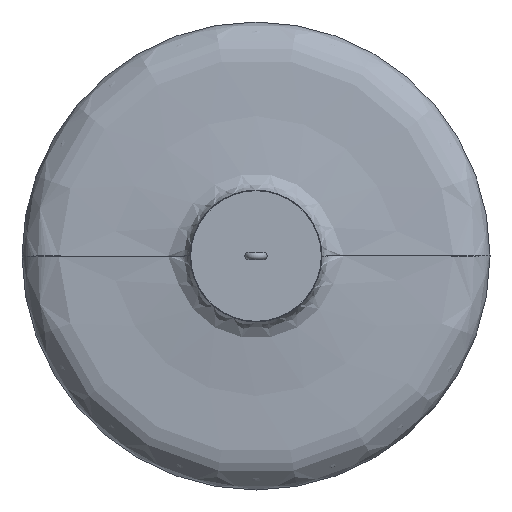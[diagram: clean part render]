
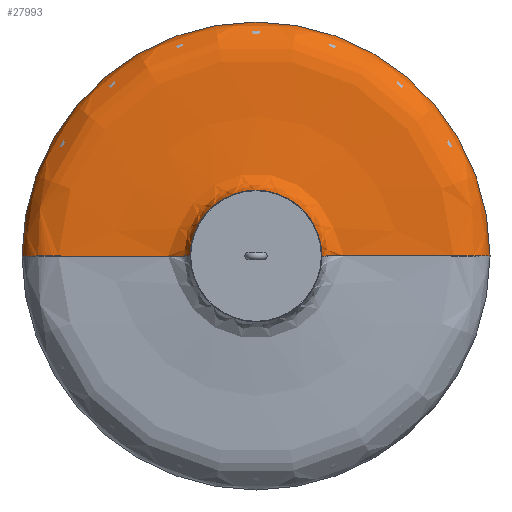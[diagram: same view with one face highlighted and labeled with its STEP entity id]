
A CAD part, front view. The second image highlights one B-rep face of the part: STEP entity #27993.
In plain terms, the highlighted face is a revolution surface.
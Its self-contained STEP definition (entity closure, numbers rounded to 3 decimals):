
#27774=CARTESIAN_POINT('',(0.,101.642,0.));
#27775=DIRECTION('',(0.,1.,0.));
#27776=DIRECTION('',(-1.,0.,0.));
#27777=AXIS2_PLACEMENT_3D('',#27774,#27775,#27776);
#27779=CARTESIAN_POINT('',(0.,0.,0.));
#27780=DIRECTION('',(0.,-1.,0.));
#27781=DIRECTION('',(1.,0.,0.));
#27782=AXIS2_PLACEMENT_3D('',#27779,#27780,#27781);
#27902=CARTESIAN_POINT('',(-400.,0.,0.));
#27903=CARTESIAN_POINT('',(-400.,6.96,0.));
#27904=CARTESIAN_POINT('',(-393.887,23.176,
0.));
#27905=CARTESIAN_POINT('',(-365.534,56.724,
0.));
#27906=CARTESIAN_POINT('',(-305.738,56.354,
0.));
#27907=CARTESIAN_POINT('',(-241.118,58.99,
0.));
#27908=CARTESIAN_POINT('',(-183.624,62.211,
0.));
#27909=CARTESIAN_POINT('',(-126.859,67.992,
0.));
#27910=CARTESIAN_POINT('',(-113.965,92.24,
0.));
#27911=CARTESIAN_POINT('',(-112.616,101.642,
0.));
#27918=CARTESIAN_POINT('',(400.,0.,0.));
#27919=CARTESIAN_POINT('',(400.,6.96,0.));
#27920=CARTESIAN_POINT('',(393.887,23.176,
0.));
#27921=CARTESIAN_POINT('',(365.534,56.724,
0.));
#27922=CARTESIAN_POINT('',(305.738,56.354,
0.));
#27923=CARTESIAN_POINT('',(241.118,58.99,
0.));
#27924=CARTESIAN_POINT('',(183.624,62.211,
0.));
#27925=CARTESIAN_POINT('',(126.859,67.992,
0.));
#27926=CARTESIAN_POINT('',(113.965,92.24,
0.));
#27927=CARTESIAN_POINT('',(112.616,101.642,
0.));
#27934=CARTESIAN_POINT('',(400.,0.,0.));
#27935=CARTESIAN_POINT('',(-400.,0.,0.));
#27936=VERTEX_POINT('',#27934);
#27937=VERTEX_POINT('',#27935);
#27962=CARTESIAN_POINT('',(-112.616,101.642,
0.));
#27963=CARTESIAN_POINT('',(112.616,101.642,
0.));
#27964=VERTEX_POINT('',#27962);
#27965=VERTEX_POINT('',#27963);
#27966=CARTESIAN_POINT('',(399.799,-3.334,0.));
#27967=CARTESIAN_POINT('',(399.935,-2.219,0.));
#27968=CARTESIAN_POINT('',(400.406,5.882,0.));
#27969=CARTESIAN_POINT('',(393.887,23.176,0.));
#27970=CARTESIAN_POINT('',(365.534,56.724,0.));
#27971=CARTESIAN_POINT('',(305.738,56.354,0.));
#27972=CARTESIAN_POINT('',(241.118,58.99,0.));
#27973=CARTESIAN_POINT('',(183.624,62.211,0.));
#27974=CARTESIAN_POINT('',(126.58,68.021,0.));
#27975=CARTESIAN_POINT('',(113.417,93.286,0.));
#27976=CARTESIAN_POINT('',(112.306,104.208,0.));
#27977=CARTESIAN_POINT('',(112.237,105.091,0.));
#27979=CARTESIAN_POINT('',(0.,107.625,0.));
#27980=DIRECTION('',(0.,-1.,0.));
#27981=AXIS1_PLACEMENT('',#27979,#27980);
#27982=SURFACE_OF_REVOLUTION('',#27978,#27981);
#27984=ORIENTED_EDGE('',*,*,#27983,.T.);
#27986=ORIENTED_EDGE('',*,*,#27985,.F.);
#27988=ORIENTED_EDGE('',*,*,#27987,.T.);
#27990=ORIENTED_EDGE('',*,*,#27989,.T.);
#27991=EDGE_LOOP('',(#27984,#27986,#27988,#27990));
#27992=FACE_OUTER_BOUND('',#27991,.F.);
#27993=ADVANCED_FACE('',(#27992),#27982,.F.);
#27778=CIRCLE('',#27777,112.616);
#27783=CIRCLE('',#27782,400.);
#27912=B_SPLINE_CURVE_WITH_KNOTS('',3,(#27902,#27903,#27904,#27905,#27906,
#27907,#27908,#27909,#27910,#27911),.UNSPECIFIED.,.F.,.F.,(4,1,1,1,1,1,1,4),(
0.,0.063,0.151,0.383,0.553,
0.747,0.927,1.),.UNSPECIFIED.);
#27928=B_SPLINE_CURVE_WITH_KNOTS('',3,(#27918,#27919,#27920,#27921,#27922,
#27923,#27924,#27925,#27926,#27927),.UNSPECIFIED.,.F.,.F.,(4,1,1,1,1,1,1,4),(
0.,0.063,0.151,0.383,0.553,
0.747,0.927,1.),.UNSPECIFIED.);
#27978=B_SPLINE_CURVE_WITH_KNOTS('',3,(#27966,#27967,#27968,#27969,#27970,
#27971,#27972,#27973,#27974,#27975,#27976,#27977),.UNSPECIFIED.,.F.,.F.,(4,1,1,
1,1,1,1,1,1,4),(0.,0.01,0.072,0.158,
0.386,0.552,0.743,0.92,
0.994,1.),.UNSPECIFIED.);
#27983=EDGE_CURVE('',#27964,#27965,#27778,.T.);
#27985=EDGE_CURVE('',#27936,#27965,#27928,.T.);
#27987=EDGE_CURVE('',#27936,#27937,#27783,.T.);
#27989=EDGE_CURVE('',#27937,#27964,#27912,.T.);
